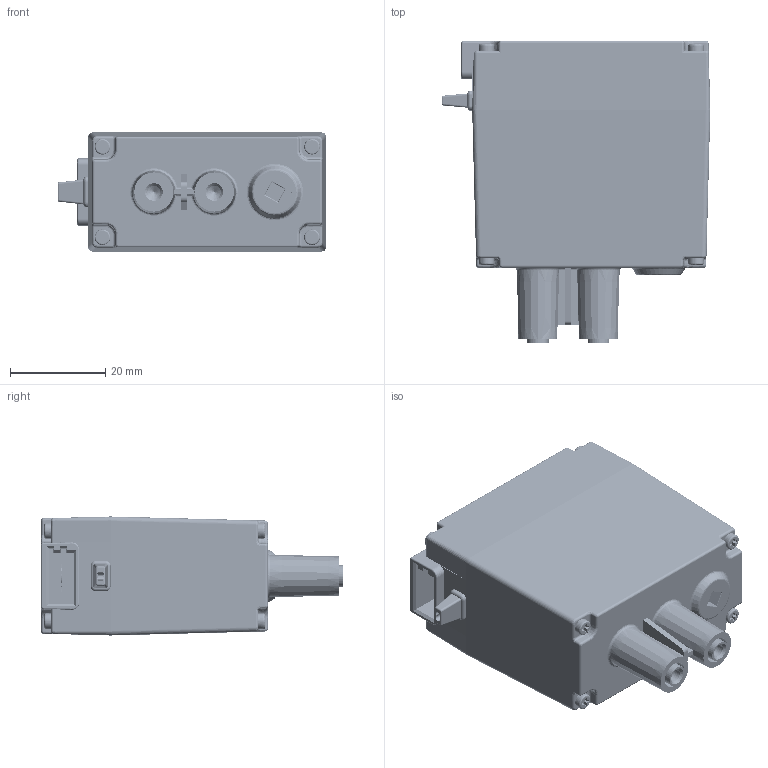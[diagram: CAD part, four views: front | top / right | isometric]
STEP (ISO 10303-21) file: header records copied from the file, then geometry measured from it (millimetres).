
FILE_DESCRIPTION (( 'STEP AP203' ), '1' );
FILE_NAME ('276-1321-ASSY.STEP', '2012-01-20T19:27:18', ( '' ), ( '' ), 'SwSTEP 2.0', 'SolidWorks 2011', '' );
FILE_SCHEMA (( 'CONFIG_CONTROL_DESIGN' ));
Products named in the file (28): 276-1321-ASSY; 276-1321-INST1; PIN_ASM_1_ASM; PIN2_1; PIN_1; PCB2_3; LIGHT_1; M2_1; BOX-BOTTOM2_3; LABLE_1; SPPM204-0050BO; SPPM206-0150BO; FS130-FT-21100; 276-2177-019 Rev1; 276-2177-018 Rev1; 276-2177-016 Rev2; 276-2177-015 Rev2; 276-2177-014 Rev1; 276-2177-013 Rev1; 276-2177-012 Rev1; 276-2177-011 Rev1; 276-2177-010 Rev1; 276-2177-009 Rev1; 276-2177-006 Rev1; 276-2177-005 Rev1; 276-2177-004 Rev1; 276-2177-003 Rev1; 276-2177-002 Rev1
Assembly tree (36 placements, depth 4):
  276-1321-ASSY
    SPPM206-0150BO  x4
    276-2177-004 Rev1
    276-2177-003 Rev1
    SPPM204-0050BO  x2
    276-2177-014 Rev1
    276-2177-005 Rev1
    276-2177-015 Rev2
    276-2177-019 Rev1  x2
    276-2177-016 Rev2
    276-2177-012 Rev1
    276-2177-002 Rev1
    LABLE_1
    276-2177-011 Rev1
    FS130-FT-21100
    276-2177-010 Rev1
    276-2177-006 Rev1
    276-1321-INST1
      M2_1  x4
      LIGHT_1
      BOX-BOTTOM2_3
      LABLE_1
      PCB2_3
      PIN_ASM_1_ASM
        PIN2_1
        PIN_1
    276-2177-018 Rev1
    276-2177-013 Rev1
    276-2177-009 Rev1
Bounding box: 56.4 x 63.4 x 25 mm (x, y, z)
Volume: 32703.7 mm3; surface area: 40412.7 mm2
Topology: 33 solids, 42 shells, 3270 faces, 10798 edges, 7660 vertices
Faces by surface type: cylinder 1620, plane 918, bspline 622, cone 72, torus 34, sphere 4
Entity records: 243490 total; most frequent: CARTESIAN_POINT 187297, ORIENTED_EDGE 12364, DIRECTION 9248, EDGE_CURVE 6214, VERTEX_POINT 4219, AXIS2_PLACEMENT_3D 3242, LINE 2764, VECTOR 2764
